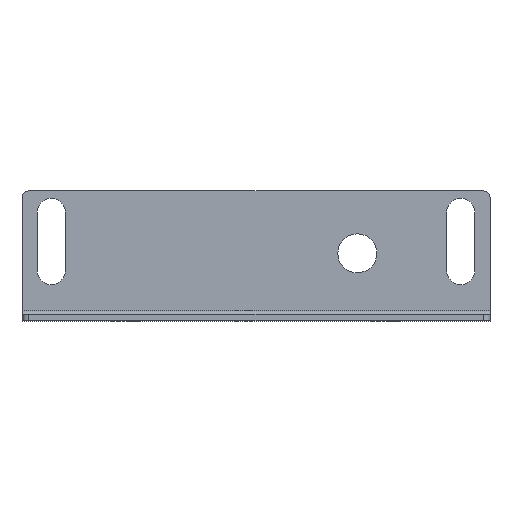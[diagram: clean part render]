
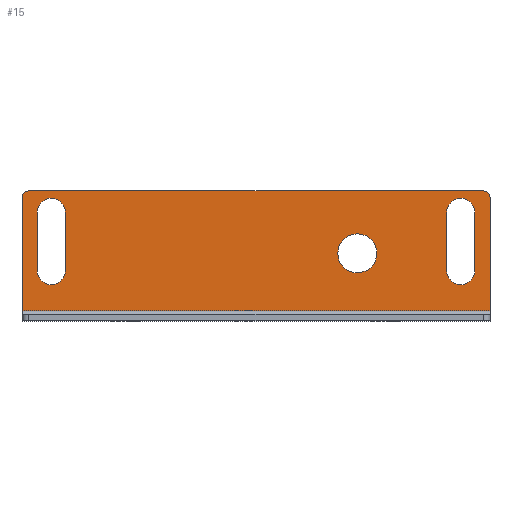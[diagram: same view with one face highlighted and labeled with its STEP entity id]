
A CAD part, top view. The second image highlights one B-rep face of the part: STEP entity #15.
In plain terms, the highlighted planar face has unit normal (0, 0, 1).
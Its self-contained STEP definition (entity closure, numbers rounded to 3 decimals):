
#6 = FACE_OUTER_BOUND ( 'NONE', #281, .T. ) ;
#7 = DIRECTION ( 'NONE',  ( 1., 0., 0. ) ) ;
#10 = FACE_BOUND ( 'NONE', #60, .T. ) ;
#15 = ADVANCED_FACE ( 'NONE', ( #6, #301, #10, #754 ), #362, .F. ) ;
#16 = DIRECTION ( 'NONE',  ( 0., 1., 0. ) ) ;
#23 = VERTEX_POINT ( 'NONE', #592 ) ;
#28 = VECTOR ( 'NONE', #65, 1000. ) ;
#29 = EDGE_CURVE ( 'NONE', #235, #862, #223, .T. ) ;
#33 = CARTESIAN_POINT ( 'NONE',  ( 35., 19., 0. ) ) ;
#40 = VERTEX_POINT ( 'NONE', #168 ) ;
#41 = DIRECTION ( 'NONE',  ( 0., 1., 0. ) ) ;
#50 = CARTESIAN_POINT ( 'NONE',  ( -33.65, 6.73, 0. ) ) ;
#56 = VECTOR ( 'NONE', #164, 1000. ) ;
#58 = DIRECTION ( 'NONE',  ( 0., 1., 0. ) ) ;
#60 = EDGE_LOOP ( 'NONE', ( #868, #128, #547, #433 ) ) ;
#65 = DIRECTION ( 'NONE',  ( -1., 0., 0. ) ) ;
#94 = CARTESIAN_POINT ( 'NONE',  ( 36., 0.6, 0. ) ) ;
#107 = LINE ( 'NONE', #681, #539 ) ;
#117 = CARTESIAN_POINT ( 'NONE',  ( -35., 19., 0. ) ) ;
#127 = EDGE_CURVE ( 'NONE', #506, #189, #107, .T. ) ;
#128 = ORIENTED_EDGE ( 'NONE', *, *, #665, .F. ) ;
#131 = AXIS2_PLACEMENT_3D ( 'NONE', #628, #272, #631 ) ;
#146 = LINE ( 'NONE', #50, #917 ) ;
#148 = VECTOR ( 'NONE', #16, 1000. ) ;
#154 = CARTESIAN_POINT ( 'NONE',  ( 15.587, 9.4, 0. ) ) ;
#164 = DIRECTION ( 'NONE',  ( 0., -1., 0. ) ) ;
#168 = CARTESIAN_POINT ( 'NONE',  ( -33.65, 15.73, 0. ) ) ;
#170 = VECTOR ( 'NONE', #452, 1000. ) ;
#178 = ORIENTED_EDGE ( 'NONE', *, *, #259, .F. ) ;
#181 = CARTESIAN_POINT ( 'NONE',  ( 33.65, 15.73, 0. ) ) ;
#182 = ORIENTED_EDGE ( 'NONE', *, *, #717, .F. ) ;
#189 = VERTEX_POINT ( 'NONE', #908 ) ;
#190 = CIRCLE ( 'NONE', #718, 1. ) ;
#199 = EDGE_CURVE ( 'NONE', #862, #887, #419, .T. ) ;
#209 = CARTESIAN_POINT ( 'NONE',  ( -31.5, 6.73, 0. ) ) ;
#213 = DIRECTION ( 'NONE',  ( 0., 1., 0. ) ) ;
#220 = LINE ( 'NONE', #725, #28 ) ;
#221 = EDGE_LOOP ( 'NONE', ( #428, #320, #275, #178 ) ) ;
#223 = LINE ( 'NONE', #656, #170 ) ;
#226 = CARTESIAN_POINT ( 'NONE',  ( 0., 0., 0. ) ) ;
#235 = VERTEX_POINT ( 'NONE', #94 ) ;
#254 = DIRECTION ( 'NONE',  ( -1., 0., 0. ) ) ;
#259 = EDGE_CURVE ( 'NONE', #425, #484, #558, .T. ) ;
#269 = ORIENTED_EDGE ( 'NONE', *, *, #29, .T. ) ;
#272 = DIRECTION ( 'NONE',  ( 0., 0., 1. ) ) ;
#275 = ORIENTED_EDGE ( 'NONE', *, *, #857, .F. ) ;
#281 = EDGE_LOOP ( 'NONE', ( #269, #384, #365, #703, #334, #356 ) ) ;
#285 = EDGE_CURVE ( 'NONE', #940, #798, #190, .T. ) ;
#301 = FACE_BOUND ( 'NONE', #221, .T. ) ;
#308 = VECTOR ( 'NONE', #254, 1000. ) ;
#318 = LINE ( 'NONE', #672, #148 ) ;
#320 = ORIENTED_EDGE ( 'NONE', *, *, #489, .F. ) ;
#321 = CARTESIAN_POINT ( 'NONE',  ( 31.5, 6.73, 0. ) ) ;
#322 = AXIS2_PLACEMENT_3D ( 'NONE', #154, #817, #504 ) ;
#323 = CARTESIAN_POINT ( 'NONE',  ( -36., 18., 0. ) ) ;
#334 = ORIENTED_EDGE ( 'NONE', *, *, #790, .T. ) ;
#337 = CARTESIAN_POINT ( 'NONE',  ( -33.65, 6.73, 0. ) ) ;
#344 = CARTESIAN_POINT ( 'NONE',  ( 33.65, 6.73, 0. ) ) ;
#356 = ORIENTED_EDGE ( 'NONE', *, *, #813, .F. ) ;
#362 = PLANE ( 'NONE',  #595 ) ;
#365 = ORIENTED_EDGE ( 'NONE', *, *, #768, .T. ) ;
#370 = CARTESIAN_POINT ( 'NONE',  ( -31.5, 15.73, 0. ) ) ;
#384 = ORIENTED_EDGE ( 'NONE', *, *, #199, .T. ) ;
#397 = DIRECTION ( 'NONE',  ( 0., 0., 1. ) ) ;
#405 = VERTEX_POINT ( 'NONE', #925 ) ;
#419 = CIRCLE ( 'NONE', #507, 1. ) ;
#425 = VERTEX_POINT ( 'NONE', #727 ) ;
#428 = ORIENTED_EDGE ( 'NONE', *, *, #751, .T. ) ;
#429 = DIRECTION ( 'NONE',  ( 0., 0., 1. ) ) ;
#433 = ORIENTED_EDGE ( 'NONE', *, *, #696, .F. ) ;
#452 = DIRECTION ( 'NONE',  ( 0., 1., 0. ) ) ;
#456 = EDGE_CURVE ( 'NONE', #553, #40, #146, .T. ) ;
#462 = DIRECTION ( 'NONE',  ( 0., 0., 1. ) ) ;
#465 = AXIS2_PLACEMENT_3D ( 'NONE', #321, #397, #604 ) ;
#484 = VERTEX_POINT ( 'NONE', #344 ) ;
#489 = EDGE_CURVE ( 'NONE', #820, #787, #869, .T. ) ;
#501 = AXIS2_PLACEMENT_3D ( 'NONE', #370, #888, #7 ) ;
#504 = DIRECTION ( 'NONE',  ( 1., 0., 0. ) ) ;
#506 = VERTEX_POINT ( 'NONE', #926 ) ;
#507 = AXIS2_PLACEMENT_3D ( 'NONE', #617, #462, #916 ) ;
#516 = DIRECTION ( 'NONE',  ( 1., 0., 0. ) ) ;
#518 = VECTOR ( 'NONE', #213, 1000. ) ;
#520 = DIRECTION ( 'NONE',  ( 0., 0., -1. ) ) ;
#524 = DIRECTION ( 'NONE',  ( 0., 0., 1. ) ) ;
#539 = VECTOR ( 'NONE', #41, 1000. ) ;
#541 = CARTESIAN_POINT ( 'NONE',  ( -36., 0., 0. ) ) ;
#546 = LINE ( 'NONE', #677, #308 ) ;
#547 = ORIENTED_EDGE ( 'NONE', *, *, #456, .T. ) ;
#553 = VERTEX_POINT ( 'NONE', #337 ) ;
#558 = CIRCLE ( 'NONE', #465, 2.15 ) ;
#576 = LINE ( 'NONE', #870, #518 ) ;
#592 = CARTESIAN_POINT ( 'NONE',  ( -36., 0.6, 0. ) ) ;
#595 = AXIS2_PLACEMENT_3D ( 'NONE', #226, #520, #815 ) ;
#598 = CARTESIAN_POINT ( 'NONE',  ( 29.35, 15.73, 0. ) ) ;
#602 = CARTESIAN_POINT ( 'NONE',  ( 36., 18., 0. ) ) ;
#604 = DIRECTION ( 'NONE',  ( 1., 0., 0. ) ) ;
#617 = CARTESIAN_POINT ( 'NONE',  ( 35., 18., 0. ) ) ;
#628 = CARTESIAN_POINT ( 'NONE',  ( 31.5, 15.73, 0. ) ) ;
#631 = DIRECTION ( 'NONE',  ( 1., 0., 0. ) ) ;
#652 = CIRCLE ( 'NONE', #700, 2.15 ) ;
#656 = CARTESIAN_POINT ( 'NONE',  ( 36., 0., 0. ) ) ;
#660 = DIRECTION ( 'NONE',  ( -1., 0., 0. ) ) ;
#665 = EDGE_CURVE ( 'NONE', #553, #506, #652, .T. ) ;
#672 = CARTESIAN_POINT ( 'NONE',  ( 33.65, 6.73, 0. ) ) ;
#677 = CARTESIAN_POINT ( 'NONE',  ( 36., 0.6, 0. ) ) ;
#681 = CARTESIAN_POINT ( 'NONE',  ( -29.35, 6.73, 0. ) ) ;
#696 = EDGE_CURVE ( 'NONE', #189, #40, #923, .T. ) ;
#700 = AXIS2_PLACEMENT_3D ( 'NONE', #209, #429, #516 ) ;
#703 = ORIENTED_EDGE ( 'NONE', *, *, #285, .T. ) ;
#717 = EDGE_CURVE ( 'NONE', #405, #405, #950, .T. ) ;
#718 = AXIS2_PLACEMENT_3D ( 'NONE', #897, #524, #660 ) ;
#725 = CARTESIAN_POINT ( 'NONE',  ( -36., 19., 0. ) ) ;
#727 = CARTESIAN_POINT ( 'NONE',  ( 29.35, 6.73, 0. ) ) ;
#751 = EDGE_CURVE ( 'NONE', #425, #787, #576, .T. ) ;
#754 = FACE_BOUND ( 'NONE', #777, .T. ) ;
#768 = EDGE_CURVE ( 'NONE', #887, #940, #220, .T. ) ;
#777 = EDGE_LOOP ( 'NONE', ( #182 ) ) ;
#787 = VERTEX_POINT ( 'NONE', #598 ) ;
#790 = EDGE_CURVE ( 'NONE', #798, #23, #914, .T. ) ;
#798 = VERTEX_POINT ( 'NONE', #323 ) ;
#813 = EDGE_CURVE ( 'NONE', #235, #23, #546, .T. ) ;
#815 = DIRECTION ( 'NONE',  ( -1., 0., 0. ) ) ;
#817 = DIRECTION ( 'NONE',  ( 0., 0., 1. ) ) ;
#820 = VERTEX_POINT ( 'NONE', #181 ) ;
#857 = EDGE_CURVE ( 'NONE', #484, #820, #318, .T. ) ;
#862 = VERTEX_POINT ( 'NONE', #602 ) ;
#868 = ORIENTED_EDGE ( 'NONE', *, *, #127, .F. ) ;
#869 = CIRCLE ( 'NONE', #131, 2.15 ) ;
#870 = CARTESIAN_POINT ( 'NONE',  ( 29.35, 6.73, 0. ) ) ;
#887 = VERTEX_POINT ( 'NONE', #33 ) ;
#888 = DIRECTION ( 'NONE',  ( 0., 0., 1. ) ) ;
#897 = CARTESIAN_POINT ( 'NONE',  ( -35., 18., 0. ) ) ;
#908 = CARTESIAN_POINT ( 'NONE',  ( -29.35, 15.73, 0. ) ) ;
#914 = LINE ( 'NONE', #541, #56 ) ;
#916 = DIRECTION ( 'NONE',  ( -1., 0., 0. ) ) ;
#917 = VECTOR ( 'NONE', #58, 1000. ) ;
#923 = CIRCLE ( 'NONE', #501, 2.15 ) ;
#925 = CARTESIAN_POINT ( 'NONE',  ( 18.587, 9.4, 0. ) ) ;
#926 = CARTESIAN_POINT ( 'NONE',  ( -29.35, 6.73, 0. ) ) ;
#940 = VERTEX_POINT ( 'NONE', #117 ) ;
#950 = CIRCLE ( 'NONE', #322, 3. ) ;
